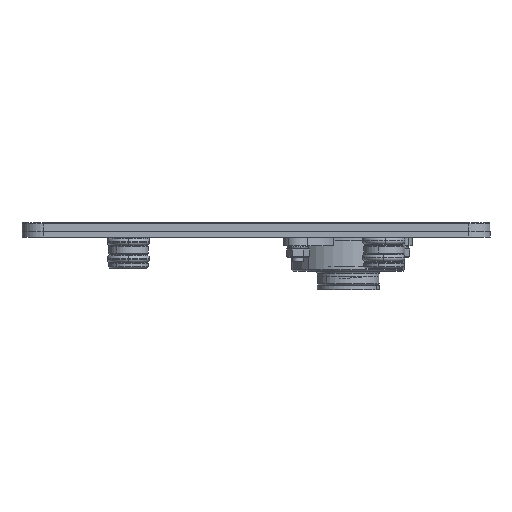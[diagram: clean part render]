
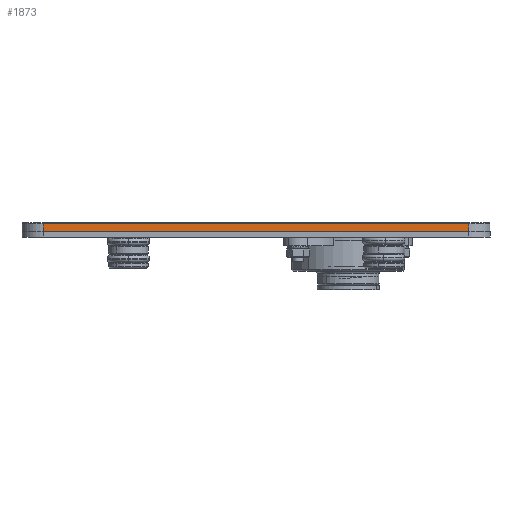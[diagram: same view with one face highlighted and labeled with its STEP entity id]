
A CAD part, left-side view. The second image highlights one B-rep face of the part: STEP entity #1873.
In plain terms, the highlighted planar face has unit normal (-1, 0, 0).
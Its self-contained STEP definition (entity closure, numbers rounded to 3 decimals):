
#1089 = VERTEX_POINT ( 'NONE', #11340 ) ;
#1372 = VECTOR ( 'NONE', #2751, 1000. ) ;
#1537 = ORIENTED_EDGE ( 'NONE', *, *, #4831, .T. ) ;
#1760 = AXIS2_PLACEMENT_3D ( 'NONE', #10389, #2358, #4931 ) ;
#1873 = ADVANCED_FACE ( 'NONE', ( #4003 ), #3124, .F. ) ;
#2358 = DIRECTION ( 'NONE',  ( 1., 0., 0. ) ) ;
#2592 = DIRECTION ( 'NONE',  ( 0., 0., 1. ) ) ;
#2751 = DIRECTION ( 'NONE',  ( 0., -1., 0. ) ) ;
#3124 = PLANE ( 'NONE',  #1760 ) ;
#3474 = CARTESIAN_POINT ( 'NONE',  ( -7.5, 155., 0. ) ) ;
#3525 = LINE ( 'NONE', #3474, #1372 ) ;
#3650 = VECTOR ( 'NONE', #4946, 1000. ) ;
#3745 = VECTOR ( 'NONE', #6347, 1000. ) ;
#4003 = FACE_OUTER_BOUND ( 'NONE', #8213, .T. ) ;
#4407 = VERTEX_POINT ( 'NONE', #7737 ) ;
#4650 = VECTOR ( 'NONE', #2592, 1000. ) ;
#4662 = ORIENTED_EDGE ( 'NONE', *, *, #10091, .T. ) ;
#4831 = EDGE_CURVE ( 'NONE', #5870, #8941, #8922, .T. ) ;
#4931 = DIRECTION ( 'NONE',  ( 0., 0., -1. ) ) ;
#4946 = DIRECTION ( 'NONE',  ( 0., 1., 0. ) ) ;
#5310 = CARTESIAN_POINT ( 'NONE',  ( -7.5, 2.5, 2.7 ) ) ;
#5870 = VERTEX_POINT ( 'NONE', #6564 ) ;
#6013 = EDGE_CURVE ( 'NONE', #1089, #4407, #10850, .T. ) ;
#6347 = DIRECTION ( 'NONE',  ( 0., 0., -1. ) ) ;
#6564 = CARTESIAN_POINT ( 'NONE',  ( -7.5, 2.5, 0. ) ) ;
#6708 = CARTESIAN_POINT ( 'NONE',  ( -7.5, 0., 2.7 ) ) ;
#7404 = ORIENTED_EDGE ( 'NONE', *, *, #10689, .T. ) ;
#7485 = ORIENTED_EDGE ( 'NONE', *, *, #6013, .T. ) ;
#7737 = CARTESIAN_POINT ( 'NONE',  ( -7.5, 152.5, 0. ) ) ;
#8213 = EDGE_LOOP ( 'NONE', ( #1537, #7404, #7485, #4662 ) ) ;
#8350 = LINE ( 'NONE', #6708, #3650 ) ;
#8922 = LINE ( 'NONE', #10519, #4650 ) ;
#8941 = VERTEX_POINT ( 'NONE', #5310 ) ;
#9156 = CARTESIAN_POINT ( 'NONE',  ( -7.5, 152.5, 0. ) ) ;
#10091 = EDGE_CURVE ( 'NONE', #4407, #5870, #3525, .T. ) ;
#10389 = CARTESIAN_POINT ( 'NONE',  ( -7.5, 0., 0. ) ) ;
#10519 = CARTESIAN_POINT ( 'NONE',  ( -7.5, 2.5, 0. ) ) ;
#10689 = EDGE_CURVE ( 'NONE', #8941, #1089, #8350, .T. ) ;
#10850 = LINE ( 'NONE', #9156, #3745 ) ;
#11340 = CARTESIAN_POINT ( 'NONE',  ( -7.5, 152.5, 2.7 ) ) ;
